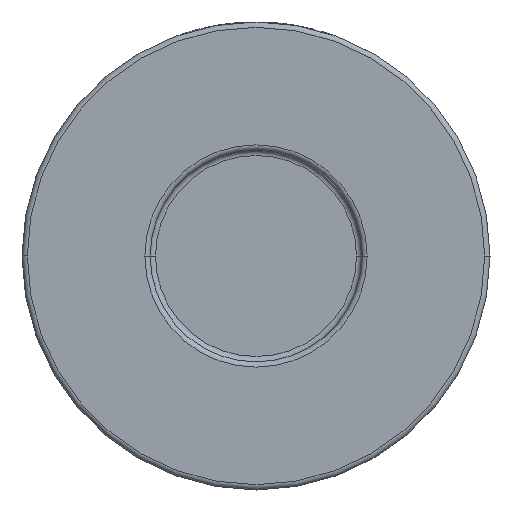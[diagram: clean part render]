
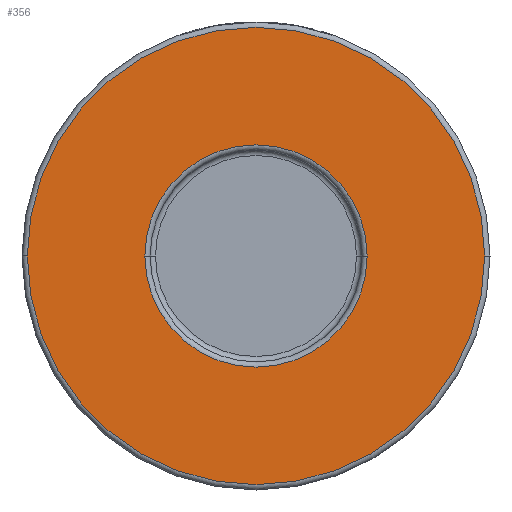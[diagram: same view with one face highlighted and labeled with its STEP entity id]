
A CAD part, front view. The second image highlights one B-rep face of the part: STEP entity #356.
In plain terms, the highlighted planar face has unit normal (0, -1, 0).
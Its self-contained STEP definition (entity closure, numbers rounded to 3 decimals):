
#356 = ADVANCED_FACE ( 'NONE', ( #512, #2950 ), #1121, .T. ) ;
#453 = CARTESIAN_POINT ( 'NONE',  ( 0., -19., 0. ) ) ;
#458 = ORIENTED_EDGE ( 'NONE', *, *, #3959, .T. ) ;
#512 = FACE_BOUND ( 'NONE', #2358, .T. ) ;
#610 = CARTESIAN_POINT ( 'NONE',  ( 0., -19., 0. ) ) ;
#620 = VERTEX_POINT ( 'NONE', #3326 ) ;
#694 = AXIS2_PLACEMENT_3D ( 'NONE', #1542, #2537, #4352 ) ;
#732 = DIRECTION ( 'NONE',  ( 1., 0., 0. ) ) ;
#766 = AXIS2_PLACEMENT_3D ( 'NONE', #610, #4517, #3459 ) ;
#983 = AXIS2_PLACEMENT_3D ( 'NONE', #2510, #3918, #2486 ) ;
#1121 = PLANE ( 'NONE',  #694 ) ;
#1149 = CARTESIAN_POINT ( 'NONE',  ( 43., -19., 0. ) ) ;
#1200 = CIRCLE ( 'NONE', #1638, 43. ) ;
#1306 = CARTESIAN_POINT ( 'NONE',  ( -43., -19., 0. ) ) ;
#1453 = EDGE_CURVE ( 'NONE', #2776, #1662, #1200, .T. ) ;
#1542 = CARTESIAN_POINT ( 'NONE',  ( 44., -19., 0. ) ) ;
#1638 = AXIS2_PLACEMENT_3D ( 'NONE', #453, #2497, #732 ) ;
#1662 = VERTEX_POINT ( 'NONE', #1306 ) ;
#1862 = CIRCLE ( 'NONE', #766, 20.9 ) ;
#2134 = DIRECTION ( 'NONE',  ( 1., 0., 0. ) ) ;
#2358 = EDGE_LOOP ( 'NONE', ( #458, #2606 ) ) ;
#2479 = ORIENTED_EDGE ( 'NONE', *, *, #1453, .T. ) ;
#2486 = DIRECTION ( 'NONE',  ( 1., 0., 0. ) ) ;
#2497 = DIRECTION ( 'NONE',  ( 0., -1., 0. ) ) ;
#2499 = EDGE_CURVE ( 'NONE', #620, #2894, #2973, .T. ) ;
#2510 = CARTESIAN_POINT ( 'NONE',  ( 0., -19., 0. ) ) ;
#2537 = DIRECTION ( 'NONE',  ( 0., -1., 0. ) ) ;
#2606 = ORIENTED_EDGE ( 'NONE', *, *, #2499, .T. ) ;
#2776 = VERTEX_POINT ( 'NONE', #1149 ) ;
#2894 = VERTEX_POINT ( 'NONE', #3570 ) ;
#2950 = FACE_OUTER_BOUND ( 'NONE', #4037, .T. ) ;
#2973 = CIRCLE ( 'NONE', #3562, 20.9 ) ;
#3326 = CARTESIAN_POINT ( 'NONE',  ( -20.9, -19., 0. ) ) ;
#3349 = CIRCLE ( 'NONE', #983, 43. ) ;
#3452 = EDGE_CURVE ( 'NONE', #1662, #2776, #3349, .T. ) ;
#3459 = DIRECTION ( 'NONE',  ( 1., 0., 0. ) ) ;
#3562 = AXIS2_PLACEMENT_3D ( 'NONE', #4147, #3893, #2134 ) ;
#3570 = CARTESIAN_POINT ( 'NONE',  ( 20.9, -19., 0. ) ) ;
#3618 = ORIENTED_EDGE ( 'NONE', *, *, #3452, .T. ) ;
#3893 = DIRECTION ( 'NONE',  ( 0., 1., 0. ) ) ;
#3918 = DIRECTION ( 'NONE',  ( 0., -1., 0. ) ) ;
#3959 = EDGE_CURVE ( 'NONE', #2894, #620, #1862, .T. ) ;
#4037 = EDGE_LOOP ( 'NONE', ( #2479, #3618 ) ) ;
#4147 = CARTESIAN_POINT ( 'NONE',  ( 0., -19., 0. ) ) ;
#4352 = DIRECTION ( 'NONE',  ( 1., 0., 0. ) ) ;
#4517 = DIRECTION ( 'NONE',  ( 0., 1., 0. ) ) ;
